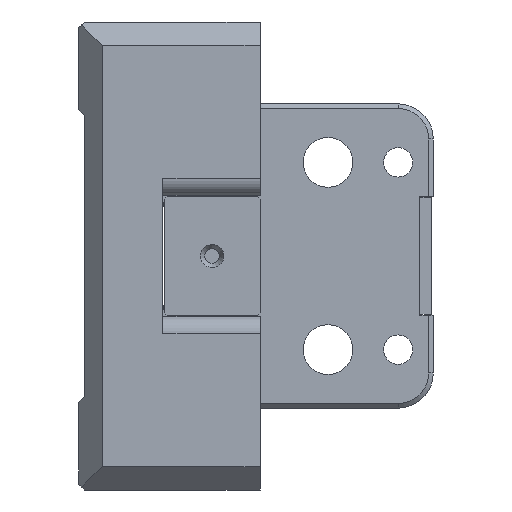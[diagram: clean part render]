
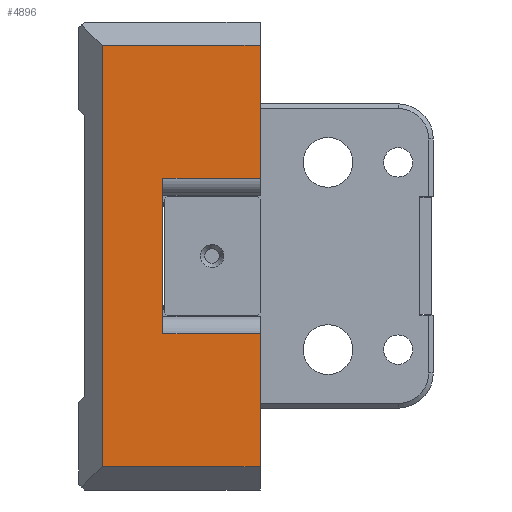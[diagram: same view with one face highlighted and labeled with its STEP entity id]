
A CAD part, left-side view. The second image highlights one B-rep face of the part: STEP entity #4896.
In plain terms, the highlighted planar face has unit normal (-1, 0, 0).
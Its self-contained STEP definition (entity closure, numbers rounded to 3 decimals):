
#10 = LINE ( 'NONE', #2484, #972 ) ;
#97 = EDGE_CURVE ( 'NONE', #3234, #3159, #1275, .T. ) ;
#181 = DIRECTION ( 'NONE',  ( 0., -1., 0. ) ) ;
#229 = LINE ( 'NONE', #1306, #2391 ) ;
#240 = VERTEX_POINT ( 'NONE', #3849 ) ;
#292 = DIRECTION ( 'NONE',  ( 0., -1., 0. ) ) ;
#307 = LINE ( 'NONE', #3640, #1013 ) ;
#311 = VECTOR ( 'NONE', #292, 1000. ) ;
#339 = CARTESIAN_POINT ( 'NONE',  ( -200., -31., -13.3 ) ) ;
#495 = DIRECTION ( 'NONE',  ( 0., 0., 1. ) ) ;
#559 = EDGE_CURVE ( 'NONE', #1500, #3159, #1819, .T. ) ;
#585 = ORIENTED_EDGE ( 'NONE', *, *, #3272, .F. ) ;
#633 = CARTESIAN_POINT ( 'NONE',  ( -200., -4., 36. ) ) ;
#640 = VERTEX_POINT ( 'NONE', #1195 ) ;
#797 = FACE_OUTER_BOUND ( 'NONE', #1134, .T. ) ;
#806 = ORIENTED_EDGE ( 'NONE', *, *, #2075, .T. ) ;
#895 = DIRECTION ( 'NONE',  ( 0., 1., 0. ) ) ;
#937 = DIRECTION ( 'NONE',  ( 0., 0., 1. ) ) ;
#972 = VECTOR ( 'NONE', #937, 1000. ) ;
#1013 = VECTOR ( 'NONE', #2853, 1000. ) ;
#1072 = VERTEX_POINT ( 'NONE', #633 ) ;
#1134 = EDGE_LOOP ( 'NONE', ( #2991, #1842, #4786, #5038, #585, #806, #4695, #4843 ) ) ;
#1153 = LINE ( 'NONE', #1415, #3163 ) ;
#1195 = CARTESIAN_POINT ( 'NONE',  ( -200., -14.4, 13.3 ) ) ;
#1275 = LINE ( 'NONE', #2716, #311 ) ;
#1289 = PLANE ( 'NONE',  #3887 ) ;
#1306 = CARTESIAN_POINT ( 'NONE',  ( -200., -31., 36. ) ) ;
#1381 = DIRECTION ( 'NONE',  ( 0., -1., 0. ) ) ;
#1415 = CARTESIAN_POINT ( 'NONE',  ( -200., -14.4, 13.3 ) ) ;
#1416 = LINE ( 'NONE', #4581, #4359 ) ;
#1500 = VERTEX_POINT ( 'NONE', #2549 ) ;
#1627 = CARTESIAN_POINT ( 'NONE',  ( -200., -14.4, -13.3 ) ) ;
#1819 = LINE ( 'NONE', #3402, #3802 ) ;
#1842 = ORIENTED_EDGE ( 'NONE', *, *, #2036, .T. ) ;
#1919 = VERTEX_POINT ( 'NONE', #2909 ) ;
#2036 = EDGE_CURVE ( 'NONE', #1919, #1500, #1416, .T. ) ;
#2075 = EDGE_CURVE ( 'NONE', #640, #240, #1153, .T. ) ;
#2099 = CARTESIAN_POINT ( 'NONE',  ( -200., -31., -40. ) ) ;
#2102 = EDGE_CURVE ( 'NONE', #1072, #1919, #4104, .T. ) ;
#2211 = DIRECTION ( 'NONE',  ( 0., 0., 1. ) ) ;
#2344 = EDGE_CURVE ( 'NONE', #240, #4655, #10, .T. ) ;
#2391 = VECTOR ( 'NONE', #895, 1000. ) ;
#2484 = CARTESIAN_POINT ( 'NONE',  ( -200., -31., -40. ) ) ;
#2549 = CARTESIAN_POINT ( 'NONE',  ( -200., -31., -36. ) ) ;
#2716 = CARTESIAN_POINT ( 'NONE',  ( -200., -14.4, -13.3 ) ) ;
#2853 = DIRECTION ( 'NONE',  ( 0., 0., -1. ) ) ;
#2903 = DIRECTION ( 'NONE',  ( -1., 0., 0. ) ) ;
#2909 = CARTESIAN_POINT ( 'NONE',  ( -200., -4., -36. ) ) ;
#2991 = ORIENTED_EDGE ( 'NONE', *, *, #2102, .T. ) ;
#3039 = CARTESIAN_POINT ( 'NONE',  ( -200., -4., -40. ) ) ;
#3159 = VERTEX_POINT ( 'NONE', #339 ) ;
#3163 = VECTOR ( 'NONE', #181, 1000. ) ;
#3234 = VERTEX_POINT ( 'NONE', #1627 ) ;
#3272 = EDGE_CURVE ( 'NONE', #640, #3234, #307, .T. ) ;
#3402 = CARTESIAN_POINT ( 'NONE',  ( -200., -31., -40. ) ) ;
#3429 = DIRECTION ( 'NONE',  ( 0., 0., -1. ) ) ;
#3640 = CARTESIAN_POINT ( 'NONE',  ( -200., -14.4, -13.3 ) ) ;
#3802 = VECTOR ( 'NONE', #2211, 1000. ) ;
#3849 = CARTESIAN_POINT ( 'NONE',  ( -200., -31., 13.3 ) ) ;
#3887 = AXIS2_PLACEMENT_3D ( 'NONE', #2099, #2903, #495 ) ;
#4104 = LINE ( 'NONE', #3039, #5046 ) ;
#4359 = VECTOR ( 'NONE', #1381, 1000. ) ;
#4388 = EDGE_CURVE ( 'NONE', #4655, #1072, #229, .T. ) ;
#4581 = CARTESIAN_POINT ( 'NONE',  ( -200., -31., -36. ) ) ;
#4655 = VERTEX_POINT ( 'NONE', #4689 ) ;
#4689 = CARTESIAN_POINT ( 'NONE',  ( -200., -31., 36. ) ) ;
#4695 = ORIENTED_EDGE ( 'NONE', *, *, #2344, .T. ) ;
#4786 = ORIENTED_EDGE ( 'NONE', *, *, #559, .T. ) ;
#4843 = ORIENTED_EDGE ( 'NONE', *, *, #4388, .T. ) ;
#4896 = ADVANCED_FACE ( 'NONE', ( #797 ), #1289, .T. ) ;
#5038 = ORIENTED_EDGE ( 'NONE', *, *, #97, .F. ) ;
#5046 = VECTOR ( 'NONE', #3429, 1000. ) ;
